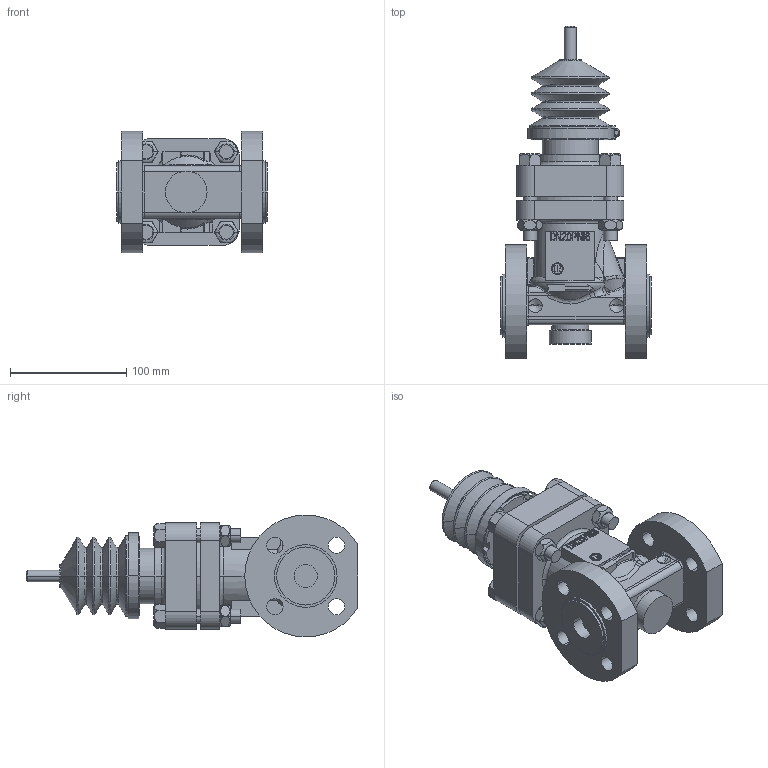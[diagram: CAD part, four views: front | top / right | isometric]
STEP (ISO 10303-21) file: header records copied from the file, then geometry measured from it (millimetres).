
FILE_DESCRIPTION((''),'2;1');
FILE_NAME('9560-00-5002_A_ASM','2014-04-15T',('SParmar1'),(''),'PRO/ENGINEER BY PARAMETRIC TECHNOLOGY CORPORATION, 2011040','PRO/ENGINEER BY PARAMETRIC TECHNOLOGY CORPORATION, 2011040','');
FILE_SCHEMA(('CONFIG_CONTROL_DESIGN'));
Products named in the file (6): 9567-11-2063; 9568-27-1204; 4188_11_1060; M12_X_65; M12_X_HEX_NUT; 9560-00-5002_A_ASM
Assembly tree (11 placements, depth 2):
  9560-00-5002_A_ASM
    9567-11-2063
    9568-27-1204
    4188_11_1060
    M12_X_65  x4
    M12_X_HEX_NUT  x4
Bounding box: 130 x 286 x 104.99 mm (x, y, z)
Volume: 1156314.2 mm3; surface area: 219546.1 mm2
Topology: 13 solids, 14 shells, 2545 faces, 6975 edges, 4565 vertices
Faces by surface type: plane 2126, cylinder 219, torus 81, cone 63, bspline 49, sphere 7
Entity records: 79932 total; most frequent: CARTESIAN_POINT 16968, ORIENTED_EDGE 13566, DIRECTION 12056, EDGE_CURVE 6783, VECTOR 5962, LINE 5962, VERTEX_POINT 4451, AXIS2_PLACEMENT_3D 3047
